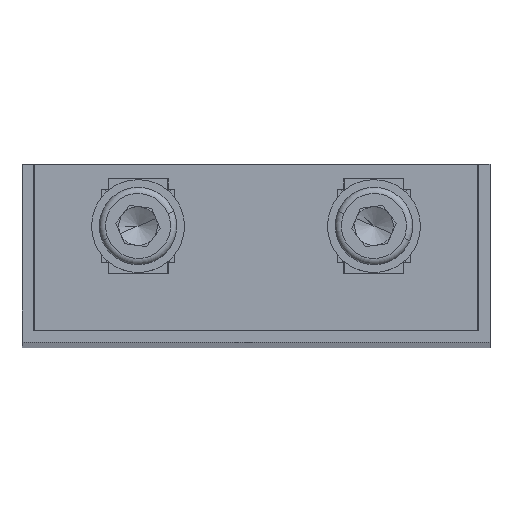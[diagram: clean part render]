
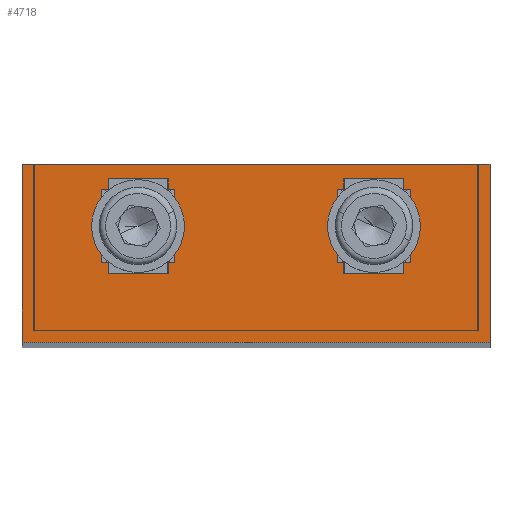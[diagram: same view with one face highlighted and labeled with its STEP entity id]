
A CAD part, top view. The second image highlights one B-rep face of the part: STEP entity #4718.
In plain terms, the highlighted planar face has unit normal (0, 0, 1).
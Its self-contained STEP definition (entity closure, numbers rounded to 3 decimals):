
#3582 = VERTEX_POINT('',#3583);
#3583 = CARTESIAN_POINT('',(-28.65,0.,207.));
#3598 = VERTEX_POINT('',#3599);
#3599 = CARTESIAN_POINT('',(28.65,0.,207.));
#3605 = EDGE_CURVE('',#3606,#3598,#3608,.T.);
#3606 = VERTEX_POINT('',#3607);
#3607 = CARTESIAN_POINT('',(28.75,0.,207.));
#3608 = LINE('',#3609,#3610);
#3609 = CARTESIAN_POINT('',(-28.75,0.,207.));
#3610 = VECTOR('',#3611,1.);
#3611 = DIRECTION('',(-1.,0.,0.));
#3662 = VERTEX_POINT('',#3663);
#3663 = CARTESIAN_POINT('',(-28.75,0.,207.));
#3669 = EDGE_CURVE('',#3662,#3582,#3670,.T.);
#3670 = LINE('',#3671,#3672);
#3671 = CARTESIAN_POINT('',(0.,0.,207.));
#3672 = VECTOR('',#3673,1.);
#3673 = DIRECTION('',(1.,0.,0.));
#3683 = EDGE_CURVE('',#3684,#3686,#3688,.T.);
#3684 = VERTEX_POINT('',#3685);
#3685 = CARTESIAN_POINT('',(-30.25,-1.5,207.));
#3686 = VERTEX_POINT('',#3687);
#3687 = CARTESIAN_POINT('',(30.25,-1.5,207.));
#3688 = LINE('',#3689,#3690);
#3689 = CARTESIAN_POINT('',(-28.75,-1.5,207.));
#3690 = VECTOR('',#3691,1.);
#3691 = DIRECTION('',(1.,0.,0.));
#3723 = EDGE_CURVE('',#3582,#3724,#3726,.T.);
#3724 = VERTEX_POINT('',#3725);
#3725 = CARTESIAN_POINT('',(-28.65,21.5,207.));
#3726 = LINE('',#3727,#3728);
#3727 = CARTESIAN_POINT('',(-28.65,0.6,207.));
#3728 = VECTOR('',#3729,1.);
#3729 = DIRECTION('',(0.,1.,0.));
#3754 = EDGE_CURVE('',#3598,#3755,#3757,.T.);
#3755 = VERTEX_POINT('',#3756);
#3756 = CARTESIAN_POINT('',(28.65,21.5,207.));
#3757 = LINE('',#3758,#3759);
#3758 = CARTESIAN_POINT('',(28.65,0.6,207.));
#3759 = VECTOR('',#3760,1.);
#3760 = DIRECTION('',(0.,1.,0.));
#3792 = EDGE_CURVE('',#3755,#3724,#3793,.T.);
#3793 = LINE('',#3794,#3795);
#3794 = CARTESIAN_POINT('',(0.,21.5,207.));
#3795 = VECTOR('',#3796,1.);
#3796 = DIRECTION('',(-1.,0.,0.));
#3898 = VERTEX_POINT('',#3899);
#3899 = CARTESIAN_POINT('',(28.75,21.5,207.));
#3905 = EDGE_CURVE('',#3898,#3906,#3908,.T.);
#3906 = VERTEX_POINT('',#3907);
#3907 = CARTESIAN_POINT('',(30.25,21.5,207.));
#3908 = LINE('',#3909,#3910);
#3909 = CARTESIAN_POINT('',(28.75,21.5,207.));
#3910 = VECTOR('',#3911,1.);
#3911 = DIRECTION('',(1.,0.,0.));
#4065 = EDGE_CURVE('',#3606,#3898,#4066,.T.);
#4066 = LINE('',#4067,#4068);
#4067 = CARTESIAN_POINT('',(28.75,0.,207.));
#4068 = VECTOR('',#4069,1.);
#4069 = DIRECTION('',(0.,1.,0.));
#4323 = EDGE_CURVE('',#3686,#3906,#4324,.T.);
#4324 = LINE('',#4325,#4326);
#4325 = CARTESIAN_POINT('',(30.25,0.,207.));
#4326 = VECTOR('',#4327,1.);
#4327 = DIRECTION('',(0.,1.,0.));
#4718 = ADVANCED_FACE('',(#4719,#4752,#4786),#4820,.F.);
#4719 = FACE_BOUND('',#4720,.T.);
#4720 = EDGE_LOOP('',(#4721,#4729,#4730,#4731,#4732,#4733,#4734,#4735,
    #4736,#4737,#4738,#4746));
#4721 = ORIENTED_EDGE('',*,*,#4722,.T.);
#4722 = EDGE_CURVE('',#4723,#3684,#4725,.T.);
#4723 = VERTEX_POINT('',#4724);
#4724 = CARTESIAN_POINT('',(-30.25,21.5,207.));
#4725 = LINE('',#4726,#4727);
#4726 = CARTESIAN_POINT('',(-30.25,21.5,207.));
#4727 = VECTOR('',#4728,1.);
#4728 = DIRECTION('',(-0.,-1.,-0.));
#4729 = ORIENTED_EDGE('',*,*,#3683,.T.);
#4730 = ORIENTED_EDGE('',*,*,#4323,.T.);
#4731 = ORIENTED_EDGE('',*,*,#3905,.F.);
#4732 = ORIENTED_EDGE('',*,*,#4065,.F.);
#4733 = ORIENTED_EDGE('',*,*,#3605,.T.);
#4734 = ORIENTED_EDGE('',*,*,#3754,.T.);
#4735 = ORIENTED_EDGE('',*,*,#3792,.T.);
#4736 = ORIENTED_EDGE('',*,*,#3723,.F.);
#4737 = ORIENTED_EDGE('',*,*,#3669,.F.);
#4738 = ORIENTED_EDGE('',*,*,#4739,.F.);
#4739 = EDGE_CURVE('',#4740,#3662,#4742,.T.);
#4740 = VERTEX_POINT('',#4741);
#4741 = CARTESIAN_POINT('',(-28.75,21.5,207.));
#4742 = LINE('',#4743,#4744);
#4743 = CARTESIAN_POINT('',(-28.75,21.5,207.));
#4744 = VECTOR('',#4745,1.);
#4745 = DIRECTION('',(0.,-1.,0.));
#4746 = ORIENTED_EDGE('',*,*,#4747,.F.);
#4747 = EDGE_CURVE('',#4723,#4740,#4748,.T.);
#4748 = LINE('',#4749,#4750);
#4749 = CARTESIAN_POINT('',(-30.25,21.5,207.));
#4750 = VECTOR('',#4751,1.);
#4751 = DIRECTION('',(1.,0.,0.));
#4752 = FACE_BOUND('',#4753,.T.);
#4753 = EDGE_LOOP('',(#4754,#4764,#4772,#4780));
#4754 = ORIENTED_EDGE('',*,*,#4755,.F.);
#4755 = EDGE_CURVE('',#4756,#4758,#4760,.T.);
#4756 = VERTEX_POINT('',#4757);
#4757 = CARTESIAN_POINT('',(-20.,18.25,207.));
#4758 = VERTEX_POINT('',#4759);
#4759 = CARTESIAN_POINT('',(-20.,8.75,207.));
#4760 = LINE('',#4761,#4762);
#4761 = CARTESIAN_POINT('',(-20.,8.75,207.));
#4762 = VECTOR('',#4763,1.);
#4763 = DIRECTION('',(-0.,-1.,-0.));
#4764 = ORIENTED_EDGE('',*,*,#4765,.F.);
#4765 = EDGE_CURVE('',#4766,#4756,#4768,.T.);
#4766 = VERTEX_POINT('',#4767);
#4767 = CARTESIAN_POINT('',(-10.5,18.25,207.));
#4768 = LINE('',#4769,#4770);
#4769 = CARTESIAN_POINT('',(-11.,18.25,207.));
#4770 = VECTOR('',#4771,1.);
#4771 = DIRECTION('',(-1.,0.,0.));
#4772 = ORIENTED_EDGE('',*,*,#4773,.F.);
#4773 = EDGE_CURVE('',#4774,#4766,#4776,.T.);
#4774 = VERTEX_POINT('',#4775);
#4775 = CARTESIAN_POINT('',(-10.5,8.75,207.));
#4776 = LINE('',#4777,#4778);
#4777 = CARTESIAN_POINT('',(-10.5,18.25,207.));
#4778 = VECTOR('',#4779,1.);
#4779 = DIRECTION('',(-0.,1.,-0.));
#4780 = ORIENTED_EDGE('',*,*,#4781,.F.);
#4781 = EDGE_CURVE('',#4758,#4774,#4782,.T.);
#4782 = LINE('',#4783,#4784);
#4783 = CARTESIAN_POINT('',(-10.5,8.75,207.));
#4784 = VECTOR('',#4785,1.);
#4785 = DIRECTION('',(1.,-0.,-0.));
#4786 = FACE_BOUND('',#4787,.T.);
#4787 = EDGE_LOOP('',(#4788,#4798,#4806,#4814));
#4788 = ORIENTED_EDGE('',*,*,#4789,.F.);
#4789 = EDGE_CURVE('',#4790,#4792,#4794,.T.);
#4790 = VERTEX_POINT('',#4791);
#4791 = CARTESIAN_POINT('',(10.5,18.25,207.));
#4792 = VERTEX_POINT('',#4793);
#4793 = CARTESIAN_POINT('',(10.5,8.75,207.));
#4794 = LINE('',#4795,#4796);
#4795 = CARTESIAN_POINT('',(10.5,8.75,207.));
#4796 = VECTOR('',#4797,1.);
#4797 = DIRECTION('',(-0.,-1.,-0.));
#4798 = ORIENTED_EDGE('',*,*,#4799,.F.);
#4799 = EDGE_CURVE('',#4800,#4790,#4802,.T.);
#4800 = VERTEX_POINT('',#4801);
#4801 = CARTESIAN_POINT('',(20.,18.25,207.));
#4802 = LINE('',#4803,#4804);
#4803 = CARTESIAN_POINT('',(11.,18.25,207.));
#4804 = VECTOR('',#4805,1.);
#4805 = DIRECTION('',(-1.,-0.,-0.));
#4806 = ORIENTED_EDGE('',*,*,#4807,.F.);
#4807 = EDGE_CURVE('',#4808,#4800,#4810,.T.);
#4808 = VERTEX_POINT('',#4809);
#4809 = CARTESIAN_POINT('',(20.,8.75,207.));
#4810 = LINE('',#4811,#4812);
#4811 = CARTESIAN_POINT('',(20.,17.75,207.));
#4812 = VECTOR('',#4813,1.);
#4813 = DIRECTION('',(0.,1.,0.));
#4814 = ORIENTED_EDGE('',*,*,#4815,.F.);
#4815 = EDGE_CURVE('',#4792,#4808,#4816,.T.);
#4816 = LINE('',#4817,#4818);
#4817 = CARTESIAN_POINT('',(19.5,8.75,207.));
#4818 = VECTOR('',#4819,1.);
#4819 = DIRECTION('',(1.,0.,0.));
#4820 = PLANE('',#4821);
#4821 = AXIS2_PLACEMENT_3D('',#4822,#4823,#4824);
#4822 = CARTESIAN_POINT('',(28.15,0.6,207.));
#4823 = DIRECTION('',(0.,0.,-1.));
#4824 = DIRECTION('',(-1.,0.,0.));
